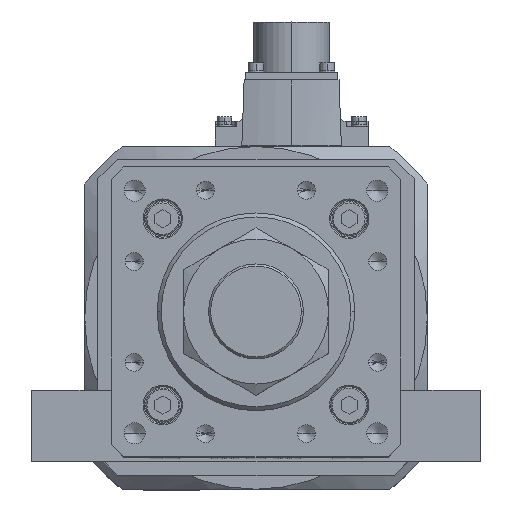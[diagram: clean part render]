
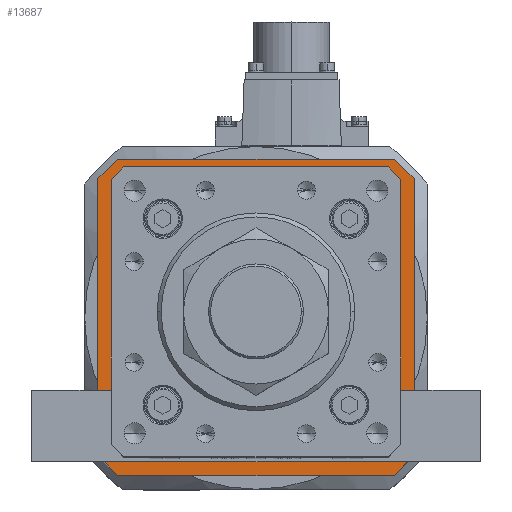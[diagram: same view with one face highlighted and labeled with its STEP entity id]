
A CAD part, top view. The second image highlights one B-rep face of the part: STEP entity #13687.
In plain terms, the highlighted planar face has unit normal (0, 0, 1).
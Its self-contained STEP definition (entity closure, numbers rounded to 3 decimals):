
#15 = CARTESIAN_POINT ( 'NONE',  ( 49.593, -53.5, -119. ) ) ;
#157 = VECTOR ( 'NONE', #24076, 1000. ) ;
#661 = CARTESIAN_POINT ( 'NONE',  ( 0., 0., -119. ) ) ;
#748 = ORIENTED_EDGE ( 'NONE', *, *, #27361, .T. ) ;
#798 = CARTESIAN_POINT ( 'NONE',  ( -53.5, 49.8, -119. ) ) ;
#882 = CARTESIAN_POINT ( 'NONE',  ( -52.5, -60., -119. ) ) ;
#944 = VECTOR ( 'NONE', #25934, 1000. ) ;
#1708 = CARTESIAN_POINT ( 'NONE',  ( -60., 52.5, -119. ) ) ;
#1755 = LINE ( 'NONE', #5384, #24385 ) ;
#2289 = VERTEX_POINT ( 'NONE', #2653 ) ;
#2293 = LINE ( 'NONE', #25812, #944 ) ;
#2324 = DIRECTION ( 'NONE',  ( 0., 1., 0. ) ) ;
#2338 = DIRECTION ( 'NONE',  ( -0.707, 0.707, 0. ) ) ;
#2653 = CARTESIAN_POINT ( 'NONE',  ( -52.5, 60., -119. ) ) ;
#3283 = EDGE_CURVE ( 'NONE', #6559, #16567, #32269, .T. ) ;
#3311 = LINE ( 'NONE', #31297, #25959 ) ;
#3404 = CARTESIAN_POINT ( 'NONE',  ( 49.8, 53.5, -119. ) ) ;
#3550 = CARTESIAN_POINT ( 'NONE',  ( 49.446, -53.646, -119. ) ) ;
#3688 = ORIENTED_EDGE ( 'NONE', *, *, #6657, .T. ) ;
#3766 = VERTEX_POINT ( 'NONE', #20661 ) ;
#4004 = VECTOR ( 'NONE', #26781, 1000. ) ;
#4021 = PLANE ( 'NONE',  #13609 ) ;
#4074 = CARTESIAN_POINT ( 'NONE',  ( 52.5, 60., -119. ) ) ;
#4274 = EDGE_CURVE ( 'NONE', #16447, #3766, #14213, .T. ) ;
#4317 = FACE_BOUND ( 'NONE', #20890, .T. ) ;
#4688 = LINE ( 'NONE', #9273, #31013 ) ;
#4716 = DIRECTION ( 'NONE',  ( 0.707, 0.707, 0. ) ) ;
#5117 = EDGE_CURVE ( 'NONE', #16771, #37190, #15045, .T. ) ;
#5384 = CARTESIAN_POINT ( 'NONE',  ( -49.446, 53.646, -119. ) ) ;
#5548 = CARTESIAN_POINT ( 'NONE',  ( -49.593, -53.5, -119. ) ) ;
#5582 = CARTESIAN_POINT ( 'NONE',  ( 60., 52.5, -119. ) ) ;
#5703 = LINE ( 'NONE', #22313, #36213 ) ;
#6559 = VERTEX_POINT ( 'NONE', #32596 ) ;
#6566 = CARTESIAN_POINT ( 'NONE',  ( 53.646, 49.446, -119. ) ) ;
#6612 = DIRECTION ( 'NONE',  ( 0., 1., 0. ) ) ;
#6627 = DIRECTION ( 'NONE',  ( -1., 0., 0. ) ) ;
#6657 = EDGE_CURVE ( 'NONE', #29980, #16771, #34826, .T. ) ;
#6842 = LINE ( 'NONE', #32984, #22578 ) ;
#7690 = VERTEX_POINT ( 'NONE', #24484 ) ;
#8004 = VERTEX_POINT ( 'NONE', #19827 ) ;
#8283 = CARTESIAN_POINT ( 'NONE',  ( -60., 52.5, -119. ) ) ;
#8858 = ORIENTED_EDGE ( 'NONE', *, *, #11413, .T. ) ;
#8887 = VERTEX_POINT ( 'NONE', #882 ) ;
#8900 = EDGE_CURVE ( 'NONE', #8004, #34537, #17132, .T. ) ;
#9273 = CARTESIAN_POINT ( 'NONE',  ( 53.5, -49.8, -119. ) ) ;
#9442 = ORIENTED_EDGE ( 'NONE', *, *, #14825, .F. ) ;
#9750 = CARTESIAN_POINT ( 'NONE',  ( -49.593, 53.5, -119. ) ) ;
#9985 = VERTEX_POINT ( 'NONE', #9750 ) ;
#10390 = VERTEX_POINT ( 'NONE', #27082 ) ;
#10927 = CARTESIAN_POINT ( 'NONE',  ( 53.5, 49.593, -119. ) ) ;
#11094 = LINE ( 'NONE', #31771, #13422 ) ;
#11413 = EDGE_CURVE ( 'NONE', #7690, #9985, #1755, .T. ) ;
#11633 = EDGE_CURVE ( 'NONE', #10390, #7690, #25277, .T. ) ;
#12447 = EDGE_LOOP ( 'NONE', ( #23764, #9442, #37636, #16169, #35396, #37017, #34300, #26577 ) ) ;
#13066 = ORIENTED_EDGE ( 'NONE', *, *, #8900, .T. ) ;
#13422 = VECTOR ( 'NONE', #14480, 1000. ) ;
#13609 = AXIS2_PLACEMENT_3D ( 'NONE', #661, #21339, #30362 ) ;
#13687 = ADVANCED_FACE ( 'NONE', ( #4317, #30168 ), #4021, .T. ) ;
#14213 = LINE ( 'NONE', #14291, #4004 ) ;
#14291 = CARTESIAN_POINT ( 'NONE',  ( 60., -52.5, -119. ) ) ;
#14480 = DIRECTION ( 'NONE',  ( 0., -1., 0. ) ) ;
#14825 = EDGE_CURVE ( 'NONE', #16567, #2289, #3311, .T. ) ;
#15045 = LINE ( 'NONE', #24335, #19678 ) ;
#15824 = DIRECTION ( 'NONE',  ( 1., 0., 0. ) ) ;
#16169 = ORIENTED_EDGE ( 'NONE', *, *, #38310, .F. ) ;
#16447 = VERTEX_POINT ( 'NONE', #27000 ) ;
#16567 = VERTEX_POINT ( 'NONE', #1708 ) ;
#16615 = DIRECTION ( 'NONE',  ( -0.707, 0.707, 0. ) ) ;
#16771 = VERTEX_POINT ( 'NONE', #15 ) ;
#17074 = ORIENTED_EDGE ( 'NONE', *, *, #28679, .T. ) ;
#17132 = LINE ( 'NONE', #6566, #30042 ) ;
#17488 = EDGE_CURVE ( 'NONE', #34537, #29980, #4688, .T. ) ;
#18195 = DIRECTION ( 'NONE',  ( 0.707, -0.707, 0. ) ) ;
#18244 = CARTESIAN_POINT ( 'NONE',  ( 52.5, 60., -119. ) ) ;
#18561 = EDGE_CURVE ( 'NONE', #18591, #16447, #11094, .T. ) ;
#18591 = VERTEX_POINT ( 'NONE', #5582 ) ;
#19606 = ORIENTED_EDGE ( 'NONE', *, *, #11633, .T. ) ;
#19678 = VECTOR ( 'NONE', #6627, 1000. ) ;
#19747 = LINE ( 'NONE', #28428, #23463 ) ;
#19827 = CARTESIAN_POINT ( 'NONE',  ( 49.593, 53.5, -119. ) ) ;
#20661 = CARTESIAN_POINT ( 'NONE',  ( 52.5, -60., -119. ) ) ;
#20890 = EDGE_LOOP ( 'NONE', ( #17074, #13066, #28016, #3688, #24715, #748, #19606, #8858 ) ) ;
#21198 = VECTOR ( 'NONE', #15824, 1000. ) ;
#21339 = DIRECTION ( 'NONE',  ( 0., 0., 1. ) ) ;
#22313 = CARTESIAN_POINT ( 'NONE',  ( -53.646, -49.446, -119. ) ) ;
#22578 = VECTOR ( 'NONE', #29772, 1000. ) ;
#23204 = DIRECTION ( 'NONE',  ( 0.707, 0.707, 0. ) ) ;
#23463 = VECTOR ( 'NONE', #2338, 1000. ) ;
#23764 = ORIENTED_EDGE ( 'NONE', *, *, #37637, .F. ) ;
#24076 = DIRECTION ( 'NONE',  ( -0.707, -0.707, 0. ) ) ;
#24118 = LINE ( 'NONE', #3404, #37081 ) ;
#24335 = CARTESIAN_POINT ( 'NONE',  ( -49.8, -53.5, -119. ) ) ;
#24385 = VECTOR ( 'NONE', #23204, 1000. ) ;
#24484 = CARTESIAN_POINT ( 'NONE',  ( -53.5, 49.593, -119. ) ) ;
#24593 = EDGE_CURVE ( 'NONE', #36404, #18591, #6842, .T. ) ;
#24715 = ORIENTED_EDGE ( 'NONE', *, *, #5117, .T. ) ;
#25277 = LINE ( 'NONE', #798, #34519 ) ;
#25812 = CARTESIAN_POINT ( 'NONE',  ( 52.5, -60., -119. ) ) ;
#25834 = LINE ( 'NONE', #4074, #21198 ) ;
#25934 = DIRECTION ( 'NONE',  ( -1., 0., 0. ) ) ;
#25959 = VECTOR ( 'NONE', #4716, 1000. ) ;
#26577 = ORIENTED_EDGE ( 'NONE', *, *, #24593, .F. ) ;
#26781 = DIRECTION ( 'NONE',  ( -0.707, -0.707, 0. ) ) ;
#27000 = CARTESIAN_POINT ( 'NONE',  ( 60., -52.5, -119. ) ) ;
#27082 = CARTESIAN_POINT ( 'NONE',  ( -53.5, -49.593, -119. ) ) ;
#27361 = EDGE_CURVE ( 'NONE', #37190, #10390, #5703, .T. ) ;
#28016 = ORIENTED_EDGE ( 'NONE', *, *, #17488, .T. ) ;
#28428 = CARTESIAN_POINT ( 'NONE',  ( -52.5, -60., -119. ) ) ;
#28679 = EDGE_CURVE ( 'NONE', #9985, #8004, #24118, .T. ) ;
#29772 = DIRECTION ( 'NONE',  ( 0.707, -0.707, 0. ) ) ;
#29915 = DIRECTION ( 'NONE',  ( 0., -1., 0. ) ) ;
#29980 = VERTEX_POINT ( 'NONE', #30867 ) ;
#30042 = VECTOR ( 'NONE', #18195, 1000. ) ;
#30168 = FACE_OUTER_BOUND ( 'NONE', #12447, .T. ) ;
#30362 = DIRECTION ( 'NONE',  ( 1., 0., 0. ) ) ;
#30867 = CARTESIAN_POINT ( 'NONE',  ( 53.5, -49.593, -119. ) ) ;
#31013 = VECTOR ( 'NONE', #29915, 1000. ) ;
#31297 = CARTESIAN_POINT ( 'NONE',  ( -52.5, 60., -119. ) ) ;
#31771 = CARTESIAN_POINT ( 'NONE',  ( 60., 52.5, -119. ) ) ;
#32269 = LINE ( 'NONE', #8283, #32747 ) ;
#32596 = CARTESIAN_POINT ( 'NONE',  ( -60., -52.5, -119. ) ) ;
#32747 = VECTOR ( 'NONE', #2324, 1000. ) ;
#32984 = CARTESIAN_POINT ( 'NONE',  ( 60., 52.5, -119. ) ) ;
#33237 = DIRECTION ( 'NONE',  ( 1., 0., 0. ) ) ;
#34300 = ORIENTED_EDGE ( 'NONE', *, *, #18561, .F. ) ;
#34519 = VECTOR ( 'NONE', #6612, 1000. ) ;
#34537 = VERTEX_POINT ( 'NONE', #10927 ) ;
#34826 = LINE ( 'NONE', #3550, #157 ) ;
#35396 = ORIENTED_EDGE ( 'NONE', *, *, #35751, .F. ) ;
#35751 = EDGE_CURVE ( 'NONE', #3766, #8887, #2293, .T. ) ;
#36213 = VECTOR ( 'NONE', #16615, 1000. ) ;
#36404 = VERTEX_POINT ( 'NONE', #18244 ) ;
#37017 = ORIENTED_EDGE ( 'NONE', *, *, #4274, .F. ) ;
#37081 = VECTOR ( 'NONE', #33237, 1000. ) ;
#37190 = VERTEX_POINT ( 'NONE', #5548 ) ;
#37636 = ORIENTED_EDGE ( 'NONE', *, *, #3283, .F. ) ;
#37637 = EDGE_CURVE ( 'NONE', #2289, #36404, #25834, .T. ) ;
#38310 = EDGE_CURVE ( 'NONE', #8887, #6559, #19747, .T. ) ;
